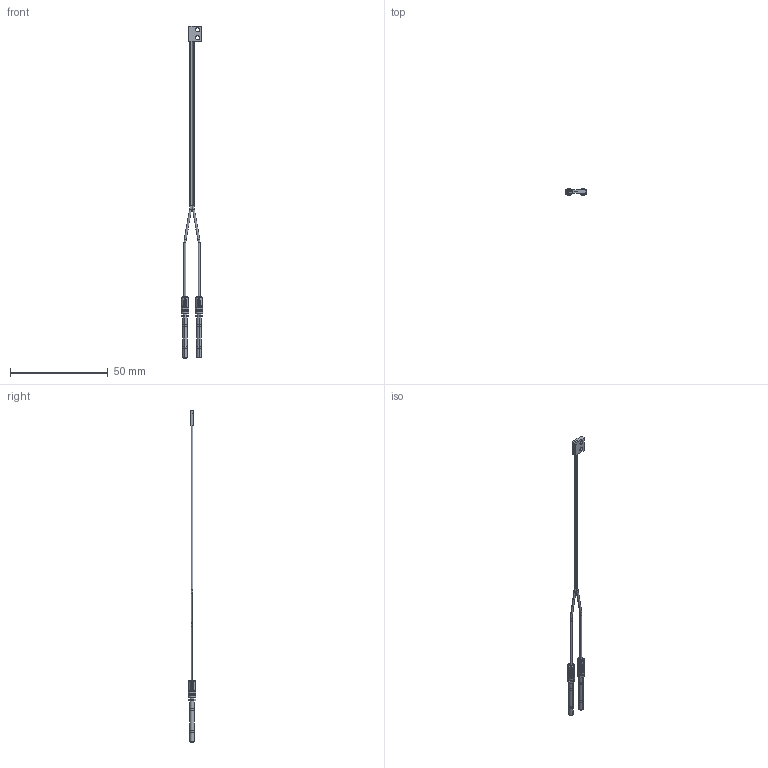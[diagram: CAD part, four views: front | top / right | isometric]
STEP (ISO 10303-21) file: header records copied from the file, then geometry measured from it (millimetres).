
FILE_DESCRIPTION (( 'STEP AP214' ), '1' );
FILE_NAME ('FDFU-210-05R.STEP', '2019-06-18T02:31:37', ( '' ), ( '' ), 'SwSTEP 2.0', 'SolidWorks 2018', '' );
FILE_SCHEMA (( 'AUTOMOTIVE_DESIGN' ));
Length unit declared in the file: millimetre
Products named in the file (1): FDFU-210-05R
Bounding box: 11.2 x 4 x 170.01 mm (x, y, z)
Volume: 662.5 mm3; surface area: 1999.1 mm2
Topology: 3 solids, 5 shells, 216 faces, 496 edges, 302 vertices
Faces by surface type: plane 112, cylinder 72, torus 20, cone 12
Entity records: 6471 total; most frequent: CARTESIAN_POINT 1303, DIRECTION 1047, ORIENTED_EDGE 992, EDGE_CURVE 496, AXIS2_PLACEMENT_3D 430, VERTEX_POINT 302, EDGE_LOOP 240, ADVANCED_FACE 216
